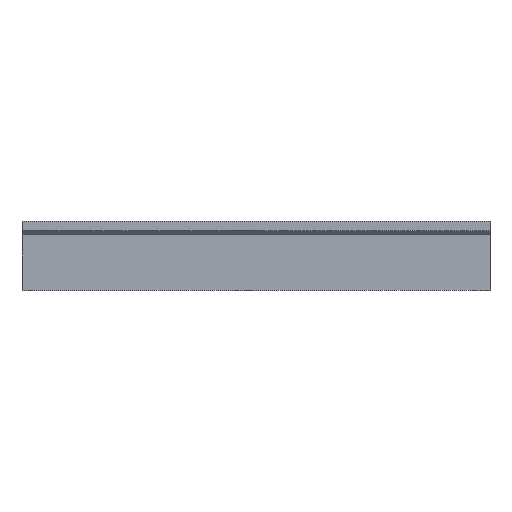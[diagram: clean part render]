
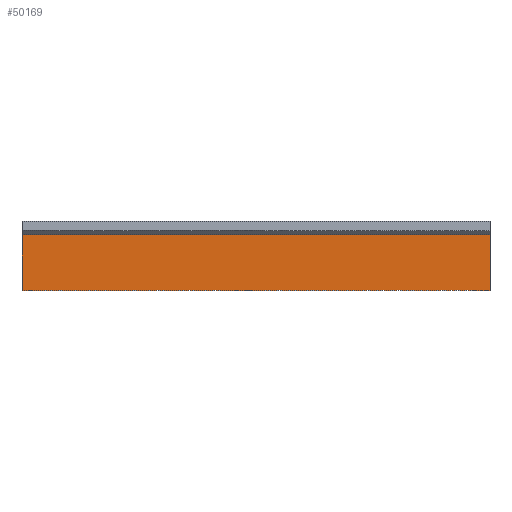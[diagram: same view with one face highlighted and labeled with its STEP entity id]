
A CAD part, front view. The second image highlights one B-rep face of the part: STEP entity #50169.
In plain terms, the highlighted planar face has unit normal (0, -1, 0).
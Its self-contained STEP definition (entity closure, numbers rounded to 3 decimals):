
#32 = PLANE('',#33);
#33 = AXIS2_PLACEMENT_3D('',#34,#35,#36);
#34 = CARTESIAN_POINT('',(-117.,-200.,1.));
#35 = DIRECTION('',(1.,0.,-0.));
#36 = DIRECTION('',(0.,0.,1.));
#225 = VERTEX_POINT('',#226);
#226 = CARTESIAN_POINT('',(-117.,-176.,27.9));
#244 = B_SPLINE_SURFACE_WITH_KNOTS('',1,1,(
    (#245,#246)
    ,(#247,#248
    )),.UNSPECIFIED.,.F.,.F.,.F.,(2,2),(2,2),(0.,388.2),(0.,1.),
  .PIECEWISE_BEZIER_KNOTS.);
#245 = CARTESIAN_POINT('',(-192.,-176.,27.9));
#246 = CARTESIAN_POINT('',(-194.1,-178.1,30.));
#247 = CARTESIAN_POINT('',(192.,-176.,27.9));
#248 = CARTESIAN_POINT('',(194.1,-178.1,30.));
#258 = EDGE_CURVE('',#259,#225,#261,.T.);
#259 = VERTEX_POINT('',#260);
#260 = CARTESIAN_POINT('',(-117.,-176.,0.));
#261 = SURFACE_CURVE('',#262,(#266,#273),.PCURVE_S1.);
#262 = LINE('',#263,#264);
#263 = CARTESIAN_POINT('',(-117.,-176.,0.));
#264 = VECTOR('',#265,1.);
#265 = DIRECTION('',(0.,0.,1.));
#266 = PCURVE('',#32,#267);
#267 = DEFINITIONAL_REPRESENTATION('',(#268),#272);
#268 = LINE('',#269,#270);
#269 = CARTESIAN_POINT('',(-1.,-24.));
#270 = VECTOR('',#271,1.);
#271 = DIRECTION('',(1.,0.));
#272 = ( GEOMETRIC_REPRESENTATION_CONTEXT(2) 
PARAMETRIC_REPRESENTATION_CONTEXT() REPRESENTATION_CONTEXT('2D SPACE',''
  ) );
#273 = PCURVE('',#274,#279);
#274 = PLANE('',#275);
#275 = AXIS2_PLACEMENT_3D('',#276,#277,#278);
#276 = CARTESIAN_POINT('',(-192.,-176.,2.));
#277 = DIRECTION('',(0.,1.,0.));
#278 = DIRECTION('',(1.,0.,0.));
#279 = DEFINITIONAL_REPRESENTATION('',(#280),#284);
#280 = LINE('',#281,#282);
#281 = CARTESIAN_POINT('',(75.,2.));
#282 = VECTOR('',#283,1.);
#283 = DIRECTION('',(0.,-1.));
#284 = ( GEOMETRIC_REPRESENTATION_CONTEXT(2) 
PARAMETRIC_REPRESENTATION_CONTEXT() REPRESENTATION_CONTEXT('2D SPACE',''
  ) );
#302 = PLANE('',#303);
#303 = AXIS2_PLACEMENT_3D('',#304,#305,#306);
#304 = CARTESIAN_POINT('',(0.,0.,0.));
#305 = DIRECTION('',(0.,0.,1.));
#306 = DIRECTION('',(1.,0.,-0.));
#29893 = PLANE('',#29894);
#29894 = AXIS2_PLACEMENT_3D('',#29895,#29896,#29897);
#29895 = CARTESIAN_POINT('',(117.,-200.,1.));
#29896 = DIRECTION('',(1.,0.,-0.));
#29897 = DIRECTION('',(0.,0.,1.));
#34190 = VERTEX_POINT('',#34191);
#34191 = CARTESIAN_POINT('',(117.,-176.,27.9));
#34218 = EDGE_CURVE('',#34219,#34190,#34221,.T.);
#34219 = VERTEX_POINT('',#34220);
#34220 = CARTESIAN_POINT('',(117.,-176.,0.));
#34221 = SURFACE_CURVE('',#34222,(#34226,#34233),.PCURVE_S1.);
#34222 = LINE('',#34223,#34224);
#34223 = CARTESIAN_POINT('',(117.,-176.,0.));
#34224 = VECTOR('',#34225,1.);
#34225 = DIRECTION('',(0.,0.,1.));
#34226 = PCURVE('',#29893,#34227);
#34227 = DEFINITIONAL_REPRESENTATION('',(#34228),#34232);
#34228 = LINE('',#34229,#34230);
#34229 = CARTESIAN_POINT('',(-1.,-24.));
#34230 = VECTOR('',#34231,1.);
#34231 = DIRECTION('',(1.,0.));
#34232 = ( GEOMETRIC_REPRESENTATION_CONTEXT(2) 
PARAMETRIC_REPRESENTATION_CONTEXT() REPRESENTATION_CONTEXT('2D SPACE',''
  ) );
#34233 = PCURVE('',#274,#34234);
#34234 = DEFINITIONAL_REPRESENTATION('',(#34235),#34239);
#34235 = LINE('',#34236,#34237);
#34236 = CARTESIAN_POINT('',(309.,2.));
#34237 = VECTOR('',#34238,1.);
#34238 = DIRECTION('',(0.,-1.));
#34239 = ( GEOMETRIC_REPRESENTATION_CONTEXT(2) 
PARAMETRIC_REPRESENTATION_CONTEXT() REPRESENTATION_CONTEXT('2D SPACE',''
  ) );
#50145 = EDGE_CURVE('',#259,#34219,#50146,.T.);
#50146 = SURFACE_CURVE('',#50147,(#50151,#50157),.PCURVE_S1.);
#50147 = LINE('',#50148,#50149);
#50148 = CARTESIAN_POINT('',(-96.,-176.,0.));
#50149 = VECTOR('',#50150,1.);
#50150 = DIRECTION('',(1.,0.,0.));
#50151 = PCURVE('',#302,#50152);
#50152 = DEFINITIONAL_REPRESENTATION('',(#50153),#50156);
#50153 = B_SPLINE_CURVE_WITH_KNOTS('',1,(#50154,#50155),.UNSPECIFIED.,
  .F.,.F.,(2,2),(-21.,213.),.PIECEWISE_BEZIER_KNOTS.);
#50154 = CARTESIAN_POINT('',(-117.,-176.));
#50155 = CARTESIAN_POINT('',(117.,-176.));
#50156 = ( GEOMETRIC_REPRESENTATION_CONTEXT(2) 
PARAMETRIC_REPRESENTATION_CONTEXT() REPRESENTATION_CONTEXT('2D SPACE',''
  ) );
#50157 = PCURVE('',#274,#50158);
#50158 = DEFINITIONAL_REPRESENTATION('',(#50159),#50163);
#50159 = LINE('',#50160,#50161);
#50160 = CARTESIAN_POINT('',(96.,2.));
#50161 = VECTOR('',#50162,1.);
#50162 = DIRECTION('',(1.,0.));
#50163 = ( GEOMETRIC_REPRESENTATION_CONTEXT(2) 
PARAMETRIC_REPRESENTATION_CONTEXT() REPRESENTATION_CONTEXT('2D SPACE',''
  ) );
#50169 = ADVANCED_FACE('',(#50170),#274,.F.);
#50170 = FACE_BOUND('',#50171,.F.);
#50171 = EDGE_LOOP('',(#50172,#50173,#50174,#50175));
#50172 = ORIENTED_EDGE('',*,*,#34218,.F.);
#50173 = ORIENTED_EDGE('',*,*,#50145,.F.);
#50174 = ORIENTED_EDGE('',*,*,#258,.T.);
#50175 = ORIENTED_EDGE('',*,*,#50176,.T.);
#50176 = EDGE_CURVE('',#225,#34190,#50177,.T.);
#50177 = SURFACE_CURVE('',#50178,(#50182,#50189),.PCURVE_S1.);
#50178 = LINE('',#50179,#50180);
#50179 = CARTESIAN_POINT('',(-192.,-176.,27.9));
#50180 = VECTOR('',#50181,1.);
#50181 = DIRECTION('',(1.,0.,0.));
#50182 = PCURVE('',#274,#50183);
#50183 = DEFINITIONAL_REPRESENTATION('',(#50184),#50188);
#50184 = LINE('',#50185,#50186);
#50185 = CARTESIAN_POINT('',(0.,-25.9));
#50186 = VECTOR('',#50187,1.);
#50187 = DIRECTION('',(1.,0.));
#50188 = ( GEOMETRIC_REPRESENTATION_CONTEXT(2) 
PARAMETRIC_REPRESENTATION_CONTEXT() REPRESENTATION_CONTEXT('2D SPACE',''
  ) );
#50189 = PCURVE('',#244,#50190);
#50190 = DEFINITIONAL_REPRESENTATION('',(#50191),#50194);
#50191 = B_SPLINE_CURVE_WITH_KNOTS('',1,(#50192,#50193),.UNSPECIFIED.,
  .F.,.F.,(2,2),(0.,384.),.PIECEWISE_BEZIER_KNOTS.);
#50192 = CARTESIAN_POINT('',(0.,0.));
#50193 = CARTESIAN_POINT('',(388.2,0.));
#50194 = ( GEOMETRIC_REPRESENTATION_CONTEXT(2) 
PARAMETRIC_REPRESENTATION_CONTEXT() REPRESENTATION_CONTEXT('2D SPACE',''
  ) );
